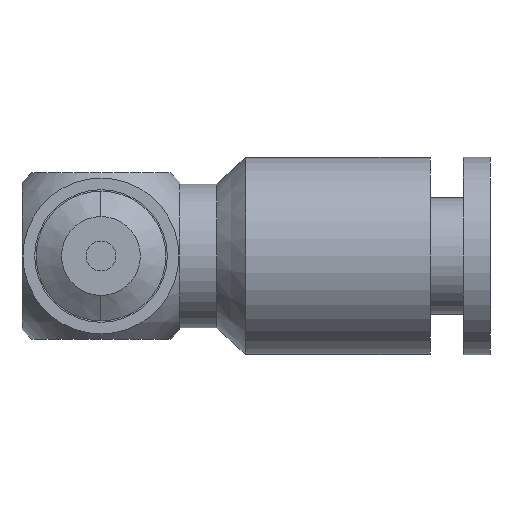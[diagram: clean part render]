
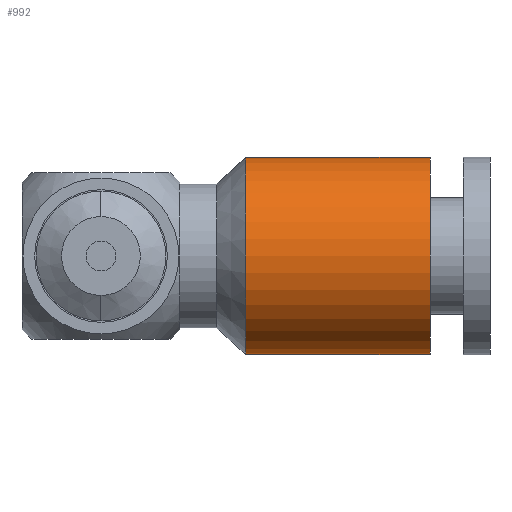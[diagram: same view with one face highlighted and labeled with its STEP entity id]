
A CAD part, left-side view. The second image highlights one B-rep face of the part: STEP entity #992.
In plain terms, the highlighted cylindrical face has radius 5.925 mm (diameter 11.85 mm), a partial arc.
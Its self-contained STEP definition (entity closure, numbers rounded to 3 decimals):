
#142 = ORIENTED_EDGE ( 'NONE', *, *, #839, .F. ) ;
#196 = DIRECTION ( 'NONE',  ( 0., 1., 0. ) ) ;
#199 = VERTEX_POINT ( 'NONE', #1392 ) ;
#205 = DIRECTION ( 'NONE',  ( 0., 1., 0. ) ) ;
#229 = AXIS2_PLACEMENT_3D ( 'NONE', #738, #1373, #732 ) ;
#262 = VECTOR ( 'NONE', #196, 1000. ) ;
#330 = CIRCLE ( 'NONE', #229, 5.925 ) ;
#345 = EDGE_CURVE ( 'NONE', #727, #542, #1248, .T. ) ;
#536 = AXIS2_PLACEMENT_3D ( 'NONE', #1064, #205, #1048 ) ;
#542 = VERTEX_POINT ( 'NONE', #693 ) ;
#543 = CARTESIAN_POINT ( 'NONE',  ( 0., 0., 0. ) ) ;
#575 = LINE ( 'NONE', #652, #262 ) ;
#591 = EDGE_CURVE ( 'NONE', #1189, #727, #1086, .T. ) ;
#652 = CARTESIAN_POINT ( 'NONE',  ( 0., 0., -5.925 ) ) ;
#689 = VECTOR ( 'NONE', #1192, 1000. ) ;
#693 = CARTESIAN_POINT ( 'NONE',  ( 0., -8.7, 5.925 ) ) ;
#727 = VERTEX_POINT ( 'NONE', #1304 ) ;
#732 = DIRECTION ( 'NONE',  ( 0., 0., 1. ) ) ;
#738 = CARTESIAN_POINT ( 'NONE',  ( 0., -8.7, 0. ) ) ;
#794 = DIRECTION ( 'NONE',  ( 0., 0., 1. ) ) ;
#820 = ORIENTED_EDGE ( 'NONE', *, *, #927, .F. ) ;
#839 = EDGE_CURVE ( 'NONE', #1189, #199, #575, .T. ) ;
#881 = EDGE_LOOP ( 'NONE', ( #142, #1038, #957, #820 ) ) ;
#927 = EDGE_CURVE ( 'NONE', #199, #542, #330, .T. ) ;
#957 = ORIENTED_EDGE ( 'NONE', *, *, #345, .T. ) ;
#992 = ADVANCED_FACE ( 'NONE', ( #1149 ), #1503, .T. ) ;
#1038 = ORIENTED_EDGE ( 'NONE', *, *, #591, .T. ) ;
#1048 = DIRECTION ( 'NONE',  ( 0., 0., 1. ) ) ;
#1064 = CARTESIAN_POINT ( 'NONE',  ( 0., -19.8, 0. ) ) ;
#1086 = CIRCLE ( 'NONE', #536, 5.925 ) ;
#1149 = FACE_OUTER_BOUND ( 'NONE', #881, .T. ) ;
#1189 = VERTEX_POINT ( 'NONE', #1224 ) ;
#1192 = DIRECTION ( 'NONE',  ( 0., 1., 0. ) ) ;
#1224 = CARTESIAN_POINT ( 'NONE',  ( 0., -19.8, -5.925 ) ) ;
#1248 = LINE ( 'NONE', #1276, #689 ) ;
#1276 = CARTESIAN_POINT ( 'NONE',  ( 0., 0., 5.925 ) ) ;
#1304 = CARTESIAN_POINT ( 'NONE',  ( 0., -19.8, 5.925 ) ) ;
#1373 = DIRECTION ( 'NONE',  ( 0., 1., 0. ) ) ;
#1392 = CARTESIAN_POINT ( 'NONE',  ( 0., -8.7, -5.925 ) ) ;
#1494 = AXIS2_PLACEMENT_3D ( 'NONE', #543, #1495, #794 ) ;
#1495 = DIRECTION ( 'NONE',  ( 0., 1., 0. ) ) ;
#1503 = CYLINDRICAL_SURFACE ( 'NONE', #1494, 5.925 ) ;
